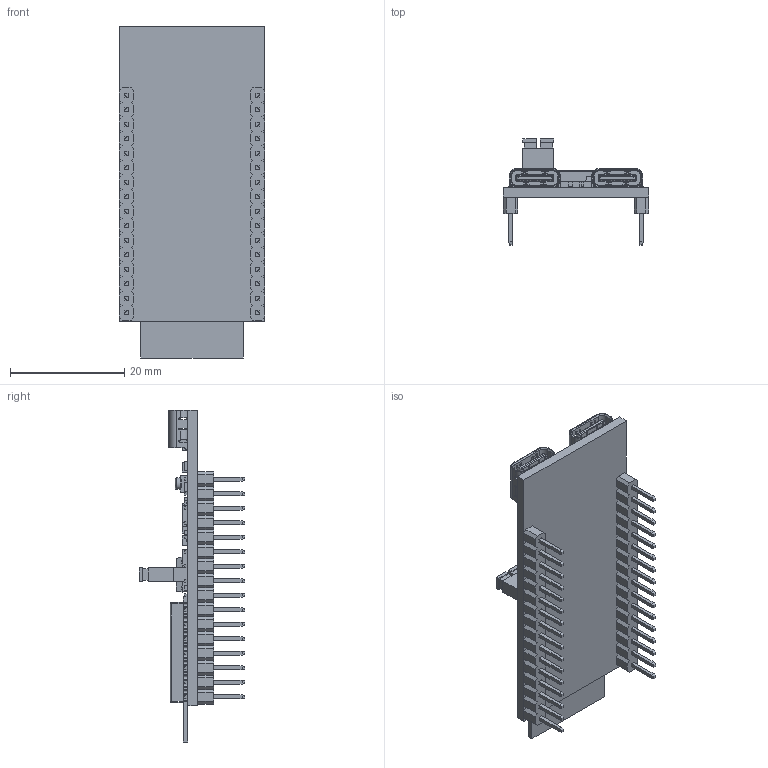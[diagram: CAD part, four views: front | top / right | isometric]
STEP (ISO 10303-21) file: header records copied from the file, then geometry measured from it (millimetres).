
FILE_DESCRIPTION (( 'STEP AP214' ), '1' );
FILE_NAME ('ESP32-C6-DEVKITC-1-N8.STEP', '2025-07-04T16:38:24', ( '' ), ( '' ), 'SwSTEP 2.0', 'SolidWorks 2021', '' );
FILE_SCHEMA (( 'AUTOMOTIVE_DESIGN' ));
Length unit declared in the file: millimetre
Products named in the file (1): ESP32-C6-DEVKITC-1-N8
Bounding box: 25.4 x 18.54 x 58.15 mm (x, y, z)
Volume: 3765.4 mm3; surface area: 8988.2 mm2
Topology: 243 solids, 243 shells, 4693 faces, 12136 edges, 7928 vertices
Faces by surface type: plane 4113, cylinder 508, cone 40, bspline 28, torus 4
Entity records: 143643 total; most frequent: CARTESIAN_POINT 25474, ORIENTED_EDGE 24272, DIRECTION 22472, EDGE_CURVE 12136, LINE 10964, VECTOR 10964, VERTEX_POINT 7928, AXIS2_PLACEMENT_3D 5754
